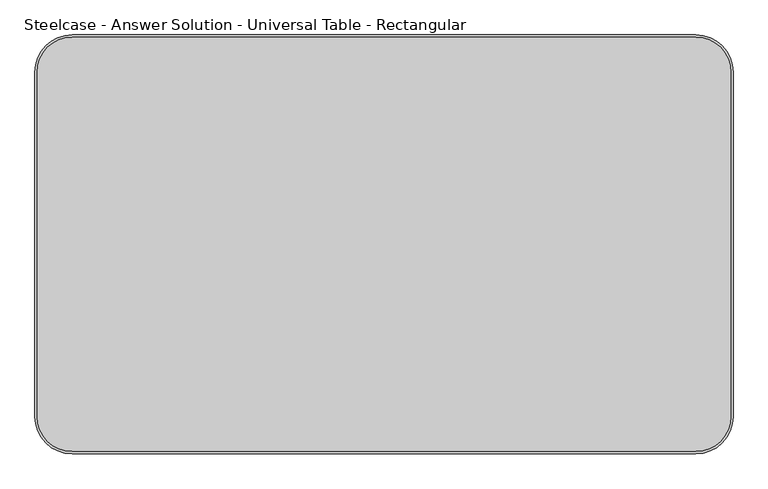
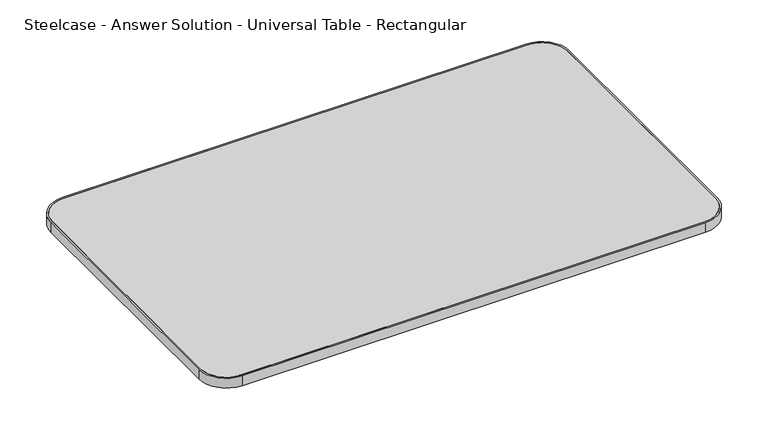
"""IFC4 building model written with IfcOpenShell, lengths in millimetres: furniture geometry, Steelcase - Answer Solution - Universal Table - Rectangular : 36D x 60W."""

from ifc_helpers import new_model, si_unit, point, frame, frame_2d, origin, place, context, project, spatial, polyline, circle_curve, trimmed, segment, composite_curve, outline, extrude, source, transform, mapped, element, save


def steelcase_answer_solution_universal_table_rectangular_161e908d(model_context):
    return source(origin(), model_context, "Body", "SweptSolid", [
        extrude(outline(composite_curve([segment(polyline([(5.08, -833.12), (5.08, -81.28)]), True, "CONTINUOUS"), segment(trimmed(circle_curve(frame_2d((81.28, -81.28)), 76.2), [point((5.08, -81.28))], [point((81.28, -5.08))], False, "CARTESIAN"), True, "CONTINUOUS"), segment(polyline([(81.28, -5.08), (1442.72, -5.08)]), True, "CONTINUOUS"), segment(trimmed(circle_curve(frame_2d((1442.72, -81.28)), 76.2), [point((1442.72, -5.08))], [point((1518.92, -81.28))], False, "CARTESIAN"), True, "CONTINUOUS"), segment(polyline([(1518.92, -81.28), (1518.92, -833.12)]), True, "CONTINUOUS"), segment(trimmed(circle_curve(frame_2d((1442.72, -833.12)), 76.2), [point((1518.92, -833.12))], [point((1442.72, -909.32))], False, "CARTESIAN"), True, "CONTINUOUS"), segment(polyline([(1442.72, -909.32), (81.28, -909.32)]), True, "CONTINUOUS"), segment(trimmed(circle_curve(frame_2d((81.28, -833.12)), 76.2), [point((81.28, -909.32))], [point((5.08, -833.12))], False, "CARTESIAN"), True, "CONTINUOUS")], self_intersect=False)), frame((0.0, 0.0, 668.274), z_axis=(0.0, 0.0, 1.0), x_axis=(1.0, 0.0, 0.0)), (0.0, 0.0, 1.0), 30.0990349),
        extrude(outline(composite_curve([segment(polyline([(81.28, 0.0), (1442.72, 0.0)]), True, "CONTINUOUS"), segment(trimmed(circle_curve(frame_2d((1442.72, -81.28)), 81.28), [point((1442.72, 0.0))], [point((1524.0, -81.28))], False, "CARTESIAN"), True, "CONTINUOUS"), segment(polyline([(1524.0, -81.28), (1524.0, -833.12)]), True, "CONTINUOUS"), segment(trimmed(circle_curve(frame_2d((1442.72, -833.12)), 81.28), [point((1524.0, -833.12))], [point((1442.72, -914.4))], False, "CARTESIAN"), True, "CONTINUOUS"), segment(polyline([(1442.72, -914.4), (81.28, -914.4)]), True, "CONTINUOUS"), segment(trimmed(circle_curve(frame_2d((81.28, -833.12)), 81.28), [point((81.28, -914.4))], [point((0.0, -833.12))], False, "CARTESIAN"), True, "CONTINUOUS"), segment(polyline([(0.0, -833.12), (0.0, -81.28)]), True, "CONTINUOUS"), segment(trimmed(circle_curve(frame_2d((81.28, -81.28)), 81.28), [point((0.0, -81.28))], [point((81.28, 0.0))], False, "CARTESIAN"), True, "CONTINUOUS")], self_intersect=False), holes=[composite_curve([segment(trimmed(circle_curve(frame_2d((81.28, -81.28)), 76.2), [point((81.28, -5.08))], [point((5.08, -81.28))], True, "CARTESIAN"), True, "CONTINUOUS"), segment(polyline([(5.08, -81.28), (5.08, -833.12)]), True, "CONTINUOUS"), segment(trimmed(circle_curve(frame_2d((81.28, -833.12)), 76.2), [point((5.08, -833.12))], [point((81.28, -909.32))], True, "CARTESIAN"), True, "CONTINUOUS"), segment(polyline([(81.28, -909.32), (1442.72, -909.32)]), True, "CONTINUOUS"), segment(trimmed(circle_curve(frame_2d((1442.72, -833.12)), 76.2), [point((1442.72, -909.32))], [point((1518.92, -833.12))], True, "CARTESIAN"), True, "CONTINUOUS"), segment(polyline([(1518.92, -833.12), (1518.92, -81.28)]), True, "CONTINUOUS"), segment(trimmed(circle_curve(frame_2d((1442.72, -81.28)), 76.2), [point((1518.92, -81.28))], [point((1442.72, -5.08))], True, "CARTESIAN"), True, "CONTINUOUS"), segment(polyline([(1442.72, -5.08), (81.28, -5.08)]), True, "CONTINUOUS")], self_intersect=False)]), frame((0.0, 0.0, 668.274), z_axis=(0.0, 0.0, 1.0), x_axis=(1.0, 0.0, 0.0)), (0.0, 0.0, 1.0), 30.0990349),
    ])


if __name__ == "__main__":
    model = new_model("IFC4")
    model_context = context("Model", 3, world=origin())
    ifc_project = project(units=[si_unit("LENGTHUNIT", "METRE", prefix="MILLI")], contexts=[model_context])
    site = spatial("IfcSite", under=ifc_project)
    building = spatial("IfcBuilding", under=site)
    placement = place(None, origin())
    steelcase_answer_solution_universal_table_rectangular_shape = steelcase_answer_solution_universal_table_rectangular_161e908d(model_context)
    element("IfcFurniture", 1, ObjectType="Steelcase - Answer Solution - Universal Table - Rectangular : 36D x 60W", at=placement, inside=building, context=model_context, shape_type="MappedRepresentation", body=[
        mapped(steelcase_answer_solution_universal_table_rectangular_shape, transform((0.0, 0.0, 0.0), x_axis=(1.0, 0.0, 0.0), y_axis=(0.0, 1.0, 0.0), z_axis=(0.0, 0.0, 1.0))),
    ])
    save(model, "model.ifc")
